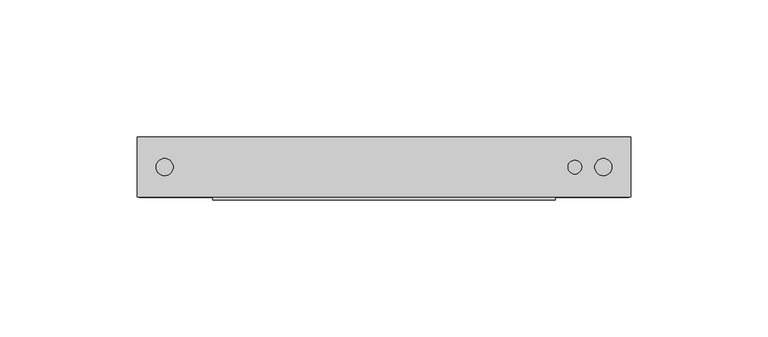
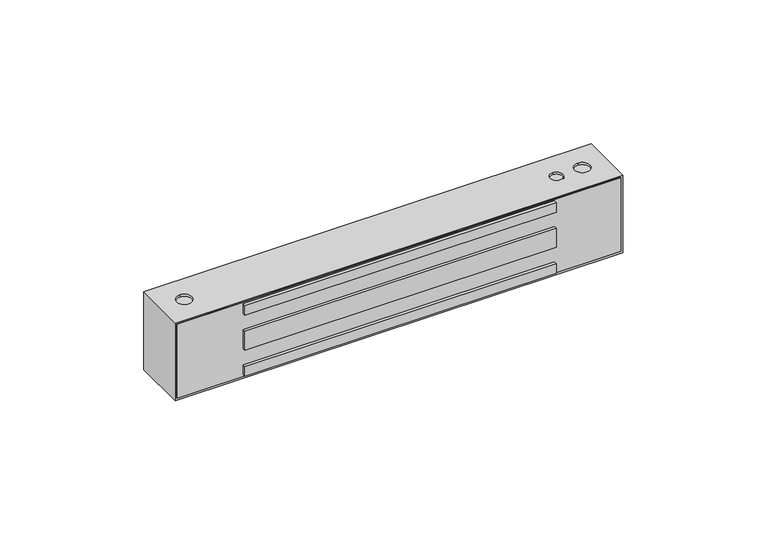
"""IFC4 building model written with IfcOpenShell, lengths in millimetres: proxy geometry, Электромагнитный_замок_ML-100KB_с_планкой_AccordTec_R19 : Электромагнитный_замок_ML-100KB_с_планкой_AccordTec_R19."""

from ifc_helpers import new_model, si_unit, frame, origin, place, context, project, spatial, polyline, circle_curve, outline, extrude, source, transform, mapped, element, save
from ifc_brep_helpers import plane_surface, revolved_surface, advanced_brep


def generic_models_ab2dd63a(model_context):
    return source(origin(), model_context, "Body", "SolidModel", [
        extrude(outline(polyline([(152.52, -1.0), (27.48, -1.0), (27.48, 1.0), (152.52, 1.0), (152.52, -1.0)])), frame((0.0, 0.0, 27.5), z_axis=(0.0, 0.0, 1.0), x_axis=(1.0, 0.0, 0.0)), (0.0, 0.0, 1.0), 4.0),
        extrude(outline(polyline([(152.52, -1.0), (27.48, -1.0), (27.48, 1.0), (152.52, 1.0), (152.52, -1.0)])), frame((0.0, 0.0, 12.5), z_axis=(0.0, 0.0, 1.0), x_axis=(1.0, 0.0, 0.0)), (0.0, 0.0, 1.0), 8.0),
        extrude(outline(polyline([(152.52, -1.0), (27.48, -1.0), (27.48, 1.0), (152.52, 1.0), (152.52, -1.0)])), frame((0.0, 0.0, 1.5), z_axis=(0.0, 0.0, 1.0), x_axis=(1.0, 0.0, 0.0)), (0.0, 0.0, 1.0), 4.0),
        extrude(outline(polyline([(32.2, 179.2), (32.2, 0.8), (0.8, 0.8), (0.8, 179.2), (32.2, 179.2)]), holes=[polyline([(31.5, 27.48), (31.5, 152.52), (27.5, 152.52), (27.5, 27.48), (31.5, 27.48)]), polyline([(20.5, 27.48), (20.5, 152.52), (12.5, 152.52), (12.5, 27.48), (20.5, 27.48)]), polyline([(5.5, 27.48), (5.5, 152.52), (1.5, 152.52), (1.5, 27.48), (5.5, 27.48)])]), frame((0.0, 0.0, 0.0), z_axis=(0.0, 1.0, 0.0), x_axis=(0.0, 0.0, 1.0)), (0.0, 0.0, 1.0), 1.0),
        advanced_brep(
        [(180.0, 22.0, 33.0), (0.0, 22.0, 33.0), (0.0, 0.0, 33.0), (180.0, 0.0, 33.0), (170.0, 7.9, 33.0), (170.0, 14.1, 33.0), (159.6, 8.5, 33.0), (159.6, 13.5, 33.0), (10.0, 7.9, 33.0), (10.0, 14.1, 33.0), (180.0, 22.0, 0.0), (180.0, 0.0, 0.0), (0.0, 0.0, 0.0), (0.0, 22.0, 0.0), (5.45, 11.0, 0.0), (14.55, 11.0, 0.0), (165.45, 11.0, 0.0), (174.55, 11.0, 0.0), (0.8, 0.0, 32.2), (179.2, 0.0, 32.2), (179.2, 0.0, 0.8), (0.8, 0.0, 0.8), (179.2, 1.0, 32.2), (0.8, 1.0, 32.2), (0.8, 1.0, 0.8), (179.2, 1.0, 0.8), (170.0, 7.9, 32.0), (170.0, 14.1, 32.0), (159.6, 8.5, 32.0), (159.6, 13.5, 32.0), (10.0, 7.9, 32.0), (10.0, 14.1, 32.0), (5.45, 11.0, 1.0), (14.55, 11.0, 1.0), (165.45, 11.0, 1.0), (174.55, 11.0, 1.0)],
        [
            (0, 1),
            (1, 2),
            (2, 3),
            (3, 0),
            (4, 5, circle_curve(frame((170.0, 11.0, 33.0), z_axis=(0.0, 0.0, -1.0), x_axis=(0.0, 1.0, 0.0)), 3.1)),
            (5, 4, circle_curve(frame((170.0, 11.0, 33.0), z_axis=(0.0, 0.0, -1.0), x_axis=(0.0, 1.0, 0.0)), 3.1)),
            (6, 7, circle_curve(frame((159.6, 11.0, 33.0), z_axis=(0.0, 0.0, -1.0), x_axis=(0.0, 1.0, 0.0)), 2.5)),
            (7, 6, circle_curve(frame((159.6, 11.0, 33.0), z_axis=(0.0, 0.0, -1.0), x_axis=(0.0, 1.0, 0.0)), 2.5)),
            (8, 9, circle_curve(frame((10.0, 11.0, 33.0), z_axis=(0.0, 0.0, -1.0), x_axis=(0.0, 1.0, 0.0)), 3.1)),
            (9, 8, circle_curve(frame((10.0, 11.0, 33.0), z_axis=(0.0, 0.0, -1.0), x_axis=(0.0, 1.0, 0.0)), 3.1)),
            (10, 11),
            (11, 12),
            (12, 13),
            (13, 10),
            (14, 15, circle_curve(frame((10.0, 11.0, 0.0), z_axis=(0.0, 0.0, 1.0), x_axis=(1.0, 0.0, 0.0)), 4.55)),
            (15, 14, circle_curve(frame((10.0, 11.0, 0.0), z_axis=(0.0, 0.0, 1.0), x_axis=(1.0, 0.0, 0.0)), 4.55)),
            (16, 17, circle_curve(frame((170.0, 11.0, 0.0), z_axis=(0.0, 0.0, 1.0), x_axis=(1.0, 0.0, 0.0)), 4.55)),
            (17, 16, circle_curve(frame((170.0, 11.0, 0.0), z_axis=(0.0, 0.0, 1.0), x_axis=(1.0, 0.0, 0.0)), 4.55)),
            (0, 10),
            (13, 1),
            (12, 2),
            (11, 3),
            (18, 19),
            (19, 20),
            (20, 21),
            (21, 18),
            (22, 23),
            (23, 24),
            (24, 25),
            (25, 22),
            (22, 19),
            (18, 23),
            (21, 24),
            (20, 25),
            (26, 27, circle_curve(frame((170.0, 11.0, 32.0), z_axis=(0.0, 0.0, 1.0), x_axis=(0.0, 1.0, 0.0)), 3.1)),
            (27, 26, circle_curve(frame((170.0, 11.0, 32.0), z_axis=(0.0, 0.0, 1.0), x_axis=(0.0, 1.0, 0.0)), 3.1)),
            (28, 29, circle_curve(frame((159.6, 11.0, 32.0), z_axis=(0.0, 0.0, 1.0), x_axis=(0.0, 1.0, 0.0)), 2.5)),
            (29, 28, circle_curve(frame((159.6, 11.0, 32.0), z_axis=(0.0, 0.0, 1.0), x_axis=(0.0, 1.0, 0.0)), 2.5)),
            (30, 31, circle_curve(frame((10.0, 11.0, 32.0), z_axis=(0.0, 0.0, 1.0), x_axis=(0.0, 1.0, 0.0)), 3.1)),
            (31, 30, circle_curve(frame((10.0, 11.0, 32.0), z_axis=(0.0, 0.0, 1.0), x_axis=(0.0, 1.0, 0.0)), 3.1)),
            (27, 5),
            (4, 26),
            (29, 7),
            (6, 28),
            (31, 9),
            (8, 30),
            (32, 33, circle_curve(frame((10.0, 11.0, 1.0), z_axis=(0.0, 0.0, -1.0), x_axis=(1.0, 0.0, 0.0)), 4.55)),
            (33, 32, circle_curve(frame((10.0, 11.0, 1.0), z_axis=(0.0, 0.0, -1.0), x_axis=(1.0, 0.0, 0.0)), 4.55)),
            (34, 35, circle_curve(frame((170.0, 11.0, 1.0), z_axis=(0.0, 0.0, -1.0), x_axis=(1.0, 0.0, 0.0)), 4.55)),
            (35, 34, circle_curve(frame((170.0, 11.0, 1.0), z_axis=(0.0, 0.0, -1.0), x_axis=(1.0, 0.0, 0.0)), 4.55)),
            (33, 15),
            (14, 32),
            (35, 17),
            (16, 34),
        ],
        [
            plane_surface(frame((0.0, 22.0, 33.0), z_axis=(0.0, 0.0, 1.0), x_axis=(-1.0, 0.0, 0.0))),
            plane_surface(frame((0.0, 22.0, 0.0), z_axis=(0.0, 0.0, -1.0), x_axis=(1.0, 0.0, 0.0))),
            plane_surface(frame((180.0, 22.0, 33.0), z_axis=(0.0, 1.0, 0.0), x_axis=(0.0, 0.0, -1.0))),
            plane_surface(frame((0.0, 22.0, 33.0), z_axis=(-1.0, 0.0, 0.0), x_axis=(0.0, 0.0, -1.0))),
            plane_surface(frame((0.0, 0.0, 33.0), z_axis=(0.0, -1.0, 0.0), x_axis=(0.0, 0.0, -1.0))),
            plane_surface(frame((180.0, 0.0, 33.0), z_axis=(1.0, 0.0, 0.0), x_axis=(0.0, 0.0, -1.0))),
            plane_surface(frame((0.8, 1.0, 32.2), z_axis=(0.0, -1.0, 0.0), x_axis=(1.0, 0.0, 0.0))),
            plane_surface(frame((179.2, 0.0, 32.2), z_axis=(0.0, 0.0, -1.0), x_axis=(0.0, 1.0, 0.0))),
            plane_surface(frame((0.8, 0.0, 32.2), z_axis=(1.0, 0.0, 0.0), x_axis=(0.0, 1.0, 0.0))),
            plane_surface(frame((0.8, 0.0, 0.8), z_axis=(0.0, 0.0, 1.0), x_axis=(0.0, 1.0, 0.0))),
            plane_surface(frame((179.2, 0.0, 0.8), z_axis=(-1.0, 0.0, 0.0), x_axis=(0.0, 1.0, 0.0))),
            plane_surface(frame((170.0, 14.1, 32.0), z_axis=(0.0, 0.0, 1.0), x_axis=(1.0, 0.0, 0.0))),
            revolved_surface(polyline([(170.0, 14.1, 32.0), (170.0, 14.1, 33.0)]), (170.0, 11.0, 34.0), (0.0, 0.0, -1.0)),
            revolved_surface(polyline([(159.6, 13.5, 32.0), (159.6, 13.5, 33.0)]), (159.6, 11.0, 33.0), (0.0, 0.0, -1.0)),
            revolved_surface(polyline([(10.0, 14.1, 32.0), (10.0, 14.1, 33.0)]), (10.0, 11.0, 33.0), (0.0, 0.0, -1.0)),
            plane_surface(frame((14.55, 11.0, 1.0), z_axis=(0.0, 0.0, -1.0), x_axis=(0.0, 1.0, 0.0))),
            revolved_surface(polyline([(14.55, 11.0, 1.0), (14.55, 11.0, 0.0)]), (10.0, 11.0, -1.0), (0.0, 0.0, 1.0)),
            revolved_surface(polyline([(174.55, 11.0, 1.0), (174.55, 11.0, 0.0)]), (170.0, 11.0, 0.0), (0.0, 0.0, 1.0)),
        ],
        [
            (0, [[1, 2, 3, 4], [5, 6], [7, 8], [9, 10]]),
            (1, [[11, 12, 13, 14], [15, 16], [17, 18]]),
            (2, [[-1, 19, -14, 20]]),
            (3, [[-2, -20, -13, 21]]),
            (4, [[-3, -21, -12, 22], [23, 24, 25, 26]]),
            (5, [[-4, -22, -11, -19]]),
            (6, [[27, 28, 29, 30]]),
            (7, [[-27, 31, -23, 32]]),
            (8, [[-28, -32, -26, 33]]),
            (9, [[-29, -33, -25, 34]]),
            (10, [[-30, -34, -24, -31]]),
            (11, [[35, 36]]),
            (11, [[37, 38]]),
            (11, [[39, 40]]),
            (12, [[-36, 41, -5, 42]]),
            (12, [[-35, -42, -6, -41]]),
            (13, [[-38, 43, -7, 44]]),
            (13, [[-37, -44, -8, -43]]),
            (14, [[-40, 45, -9, 46]]),
            (14, [[-39, -46, -10, -45]]),
            (15, [[47, 48]]),
            (15, [[49, 50]]),
            (16, [[-48, 51, -15, 52]]),
            (16, [[-47, -52, -16, -51]]),
            (17, [[-50, 53, -17, 54]]),
            (17, [[-49, -54, -18, -53]]),
        ],
    ),
    ])


if __name__ == "__main__":
    model = new_model("IFC4")
    model_context = context("Model", 3, world=origin())
    ifc_project = project(units=[si_unit("LENGTHUNIT", "METRE", prefix="MILLI")], contexts=[model_context])
    site = spatial("IfcSite", under=ifc_project)
    building = spatial("IfcBuilding", under=site)
    placement = place(None, origin())
    generic_models_shape = generic_models_ab2dd63a(model_context)
    element("IfcBuildingElementProxy", 1, Name="Электромагнитный_замок_ML-100KB_с_планкой_AccordTec_R19 : Электромагнитный_замок_ML-100KB_с_планкой_AccordTec_R19", ObjectType="Электромагнитный_замок_ML-100KB_с_планкой_AccordTec_R19 : Электромагнитный_замок_ML-100KB_с_планкой_AccordTec_R19", at=placement, inside=building, context=model_context, shape_type="MappedRepresentation", body=[
        mapped(generic_models_shape, transform((0.0, 0.0, 0.0), x_axis=(1.0, 0.0, 0.0), y_axis=(0.0, 1.0, 0.0), z_axis=(0.0, 0.0, 1.0))),
    ])
    save(model, "model.ifc")
